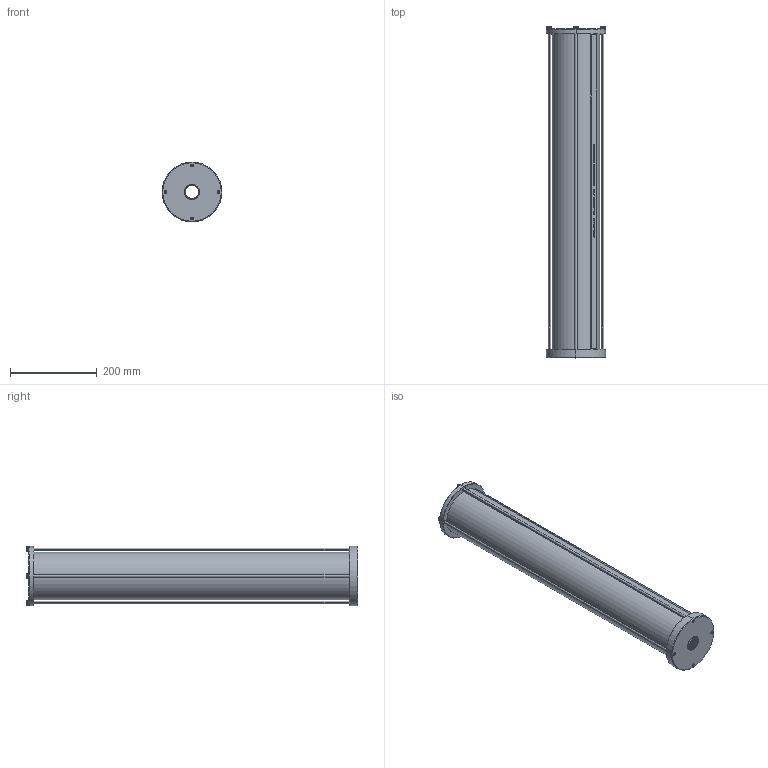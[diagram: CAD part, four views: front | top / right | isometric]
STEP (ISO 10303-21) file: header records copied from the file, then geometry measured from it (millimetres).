
FILE_DESCRIPTION (( 'STEP AP214' ), '1' );
FILE_NAME ('5.0LTR-C-11-34.STEP', '2025-08-19T14:17:20', ( '' ), ( '' ), 'SwSTEP 2.0', 'SolidWorks 2024', '' );
FILE_SCHEMA (( 'AUTOMOTIVE_DESIGN' ));
Length unit declared in the file: millimetre
Products named in the file (1): 5.0LTR-C-11-34
Bounding box: 138 x 767.32 x 138 mm (x, y, z)
Volume: 1755602.1 mm3; surface area: 663529.5 mm2
Topology: 16 solids, 16 shells, 1513 faces, 3953 edges, 2550 vertices
Faces by surface type: cylinder 533, plane 455, bspline 349, cone 88, sphere 72, torus 16
Entity records: 111619 total; most frequent: CARTESIAN_POINT 62549, ORIENTED_EDGE 7906, DIRECTION 5116, EDGE_CURVE 3953, VERTEX_POINT 2550, LINE 1828, VECTOR 1828, AXIS2_PLACEMENT_3D 1644
